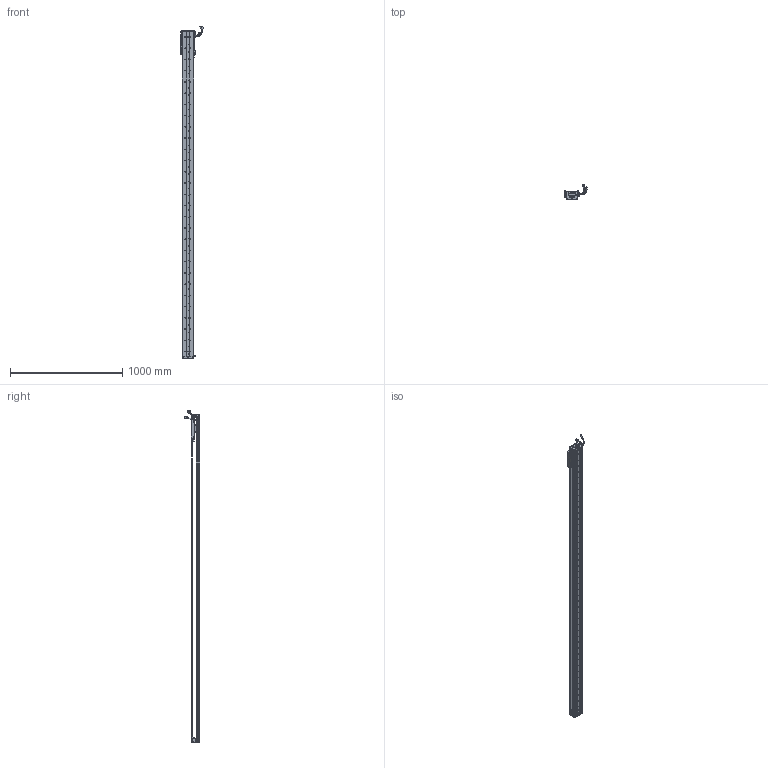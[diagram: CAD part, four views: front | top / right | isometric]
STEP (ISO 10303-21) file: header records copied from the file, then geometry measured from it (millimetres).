
FILE_DESCRIPTION (( 'STEP AP203' ), '1' );
FILE_NAME ('Z2-RY100D-1-L500-B-K.SLDASM_2650.step', '2021-05-17T02:38:13', ( '盈信电脑' ), ( '东莞市道滘镇水果街19号' ), 'SwSTEP 2.0', 'SolidWorks 2016', '' );
FILE_SCHEMA (( 'CONFIG_CONTROL_DESIGN' ));
Length unit declared in the file: millimetre
Products named in the file (36): SEAL-Part-1; SCALE; 140蚥薯蝶輸; SHIELDPLATE; Z2-RY100D-1-L500-B-K.SLDASM_2650; SCALE-Part-2; 榋妏寠巭燃_暯_M2_2; 覜茼ん672; Z-100詩湍傷裔啣; SCREW-M1.6-3; HOLDER0; LABEL-Part-1; HARNESS; 080黍杅芛假蚾釱21遴; COVER-Part-1; Z2-RY100-L500詩湍90mm遵_2650; HARNESS-Part-1; Z-RY100D詩湍奻揤裔; Z-RY100D詩湍狟揤裔; SEAL; SCREW-M1.7-1; Z2-RY100D-500-倰第菁釱_2650; SCREW-M1.7; Z2-RY100铝滑块（21款）; SCREW-M1.6-1; PSLH080_PSLF2; COVER; HARNESS-Part-2; LABEL; Z-RY100D覜茼んえ; 140雄赽晤鎢ん堤盄; PBU_SHEET; 100-Z-臏賑輸盄裔(21遴); SCREW-M1.6; SCREW-M1.6-2; SCALE-Part-1
Assembly tree (43 placements, depth 4):
  Z2-RY100D-1-L500-B-K.SLDASM_2650
    Z2-RY100D-500-倰第菁釱_2650
    Z2-RY100铝滑块（21款）
    PSLH080_PSLF2
      SCALE
        SCALE-Part-1
        SCALE-Part-2
      HARNESS
        HARNESS-Part-1
        HARNESS-Part-2
      LABEL
        LABEL-Part-1
      COVER
        COVER-Part-1
      SEAL
        SEAL-Part-1
      榋妏寠巭燃_暯_M2_2
      SHIELDPLATE
      SCREW-M1.7
      SCREW-M1.7-1
      PBU_SHEET
      SCREW-M1.6
      SCREW-M1.6-1
      SCREW-M1.6-2
      SCREW-M1.6-3
      HOLDER0
    080黍杅芛假蚾釱21遴
    Z-100詩湍傷裔啣  x2
    140蚥薯蝶輸  x2
    覜茼ん672  x3
    Z-RY100D覜茼んえ  x3
    100-Z-臏賑輸盄裔(21遴)
    140雄赽晤鎢ん堤盄
    Z2-RY100-L500詩湍90mm遵_2650
    Z-RY100D詩湍狟揤裔  x2
    Z-RY100D詩湍奻揤裔  x2
Bounding box: 205.79 x 136.11 x 2955.43 mm (x, y, z)
Volume: 5250060.2 mm3; surface area: 2088826.9 mm2
Topology: 38 solids, 38 shells, 3064 faces, 8421 edges, 5388 vertices
Faces by surface type: cylinder 1530, plane 1194, cone 218, torus 69, bspline 53
Entity records: 89617 total; most frequent: CARTESIAN_POINT 18784, DIRECTION 14469, ORIENTED_EDGE 13738, EDGE_CURVE 6869, AXIS2_PLACEMENT_3D 5453, VERTEX_POINT 4456, VECTOR 3563, LINE 3563
